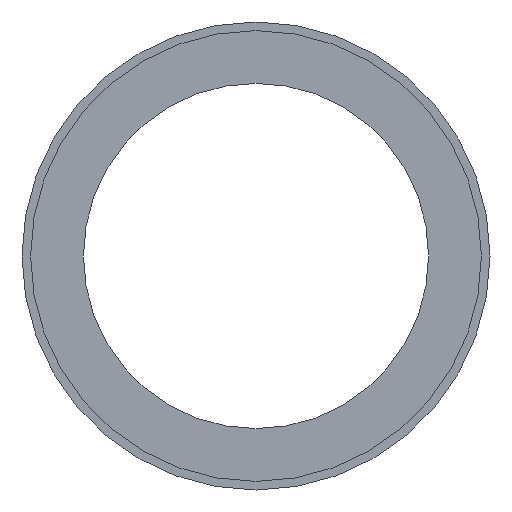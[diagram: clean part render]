
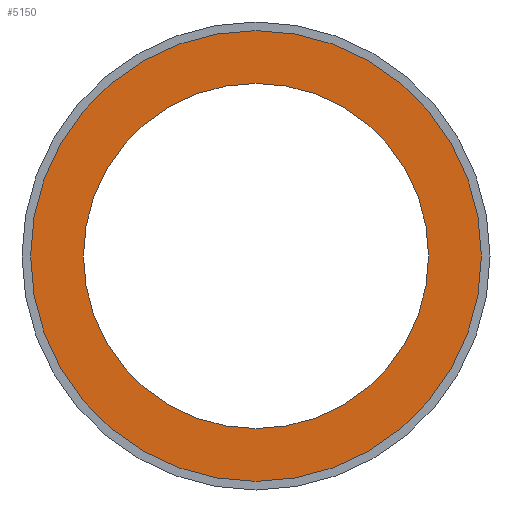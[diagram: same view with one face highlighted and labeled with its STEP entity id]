
A CAD part, front view. The second image highlights one B-rep face of the part: STEP entity #5150.
In plain terms, the highlighted planar face has unit normal (0, -1, 0).
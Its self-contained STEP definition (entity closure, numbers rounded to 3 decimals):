
#120 = CARTESIAN_POINT ( 'NONE',  ( 0., -32., 0. ) ) ;
#208 = CARTESIAN_POINT ( 'NONE',  ( 0., -32., -90. ) ) ;
#283 = CARTESIAN_POINT ( 'NONE',  ( 0., -32., 0. ) ) ;
#351 = CIRCLE ( 'NONE', #3851, 90. ) ;
#352 = EDGE_CURVE ( 'NONE', #2839, #2372, #5184, .T. ) ;
#559 = ORIENTED_EDGE ( 'NONE', *, *, #4232, .F. ) ;
#565 = DIRECTION ( 'NONE',  ( 0., -1., 0. ) ) ;
#609 = CIRCLE ( 'NONE', #4699, 90. ) ;
#893 = EDGE_CURVE ( 'NONE', #2372, #2839, #1540, .T. ) ;
#1066 = DIRECTION ( 'NONE',  ( 0., 0., -1. ) ) ;
#1425 = CARTESIAN_POINT ( 'NONE',  ( 0., -32., 0. ) ) ;
#1505 = CARTESIAN_POINT ( 'NONE',  ( 0., -32., 90. ) ) ;
#1513 = CARTESIAN_POINT ( 'NONE',  ( 0., -32., 117.5 ) ) ;
#1540 = CIRCLE ( 'NONE', #4328, 117.5 ) ;
#1569 = VERTEX_POINT ( 'NONE', #208 ) ;
#1701 = VERTEX_POINT ( 'NONE', #5310 ) ;
#1754 = DIRECTION ( 'NONE',  ( 0., 0., -1. ) ) ;
#2151 = FACE_OUTER_BOUND ( 'NONE', #4833, .T. ) ;
#2372 = VERTEX_POINT ( 'NONE', #1513 ) ;
#2538 = EDGE_LOOP ( 'NONE', ( #2558, #559 ) ) ;
#2558 = ORIENTED_EDGE ( 'NONE', *, *, #2812, .F. ) ;
#2678 = CARTESIAN_POINT ( 'NONE',  ( 0., -32., -117.5 ) ) ;
#2698 = CARTESIAN_POINT ( 'NONE',  ( 0., -32., 0. ) ) ;
#2732 = DIRECTION ( 'NONE',  ( 0., 0., -1. ) ) ;
#2812 = EDGE_CURVE ( 'NONE', #1569, #1701, #351, .T. ) ;
#2831 = DIRECTION ( 'NONE',  ( 0., 0., 1. ) ) ;
#2839 = VERTEX_POINT ( 'NONE', #2678 ) ;
#3026 = FACE_BOUND ( 'NONE', #2538, .T. ) ;
#3150 = ORIENTED_EDGE ( 'NONE', *, *, #352, .T. ) ;
#3452 = DIRECTION ( 'NONE',  ( 0., -1., 0. ) ) ;
#3530 = AXIS2_PLACEMENT_3D ( 'NONE', #1505, #5308, #2831 ) ;
#3580 = DIRECTION ( 'NONE',  ( 0., 0., -1. ) ) ;
#3851 = AXIS2_PLACEMENT_3D ( 'NONE', #2698, #5148, #2732 ) ;
#3896 = AXIS2_PLACEMENT_3D ( 'NONE', #283, #4805, #3580 ) ;
#4232 = EDGE_CURVE ( 'NONE', #1701, #1569, #609, .T. ) ;
#4328 = AXIS2_PLACEMENT_3D ( 'NONE', #120, #3452, #1754 ) ;
#4650 = ORIENTED_EDGE ( 'NONE', *, *, #893, .T. ) ;
#4699 = AXIS2_PLACEMENT_3D ( 'NONE', #1425, #565, #1066 ) ;
#4805 = DIRECTION ( 'NONE',  ( 0., -1., 0. ) ) ;
#4833 = EDGE_LOOP ( 'NONE', ( #3150, #4650 ) ) ;
#4868 = PLANE ( 'NONE',  #3530 ) ;
#5148 = DIRECTION ( 'NONE',  ( 0., -1., 0. ) ) ;
#5150 = ADVANCED_FACE ( 'NONE', ( #3026, #2151 ), #4868, .F. ) ;
#5184 = CIRCLE ( 'NONE', #3896, 117.5 ) ;
#5308 = DIRECTION ( 'NONE',  ( 0., 1., 0. ) ) ;
#5310 = CARTESIAN_POINT ( 'NONE',  ( 0., -32., 90. ) ) ;
